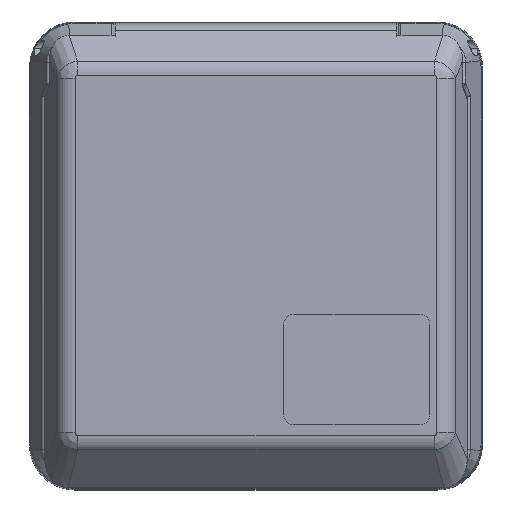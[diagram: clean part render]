
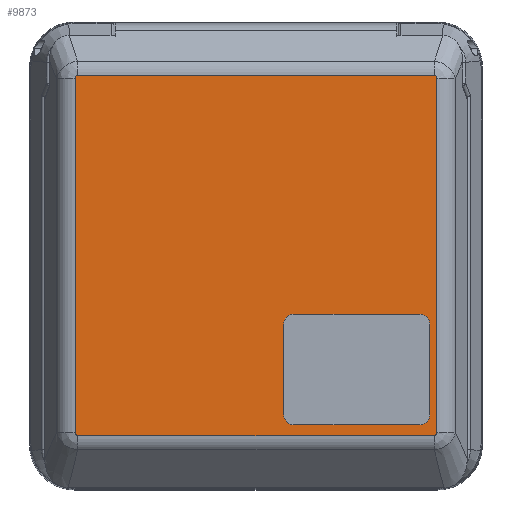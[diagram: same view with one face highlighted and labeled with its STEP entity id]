
A CAD part, top view. The second image highlights one B-rep face of the part: STEP entity #9873.
In plain terms, the highlighted planar face has unit normal (0, 0, 1).
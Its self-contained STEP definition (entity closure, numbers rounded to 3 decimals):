
#1009=CARTESIAN_POINT('',(-35.478,35.843,27.3));
#1010=CARTESIAN_POINT('',(-35.523,35.843,27.3));
#1011=CARTESIAN_POINT('',(-35.607,35.829,27.3));
#1012=CARTESIAN_POINT('',(-35.729,35.761,27.3));
#1013=CARTESIAN_POINT('',(-35.827,35.646,27.3));
#1014=CARTESIAN_POINT('',(-35.895,35.485,27.3));
#1015=CARTESIAN_POINT('',(-35.911,35.357,27.3));
#1016=CARTESIAN_POINT('',(-35.911,35.287,27.3));
#1018=DIRECTION('',(-1.,0.,0.));
#1019=VECTOR('',#1018,70.957);
#1020=CARTESIAN_POINT('',(35.478,35.843,27.3));
#1021=LINE('1716',#1020,#1019);
#1022=CARTESIAN_POINT('',(35.911,35.287,27.3));
#1023=CARTESIAN_POINT('',(35.911,35.357,27.3));
#1024=CARTESIAN_POINT('',(35.895,35.485,27.3));
#1025=CARTESIAN_POINT('',(35.827,35.646,27.3));
#1026=CARTESIAN_POINT('',(35.729,35.761,27.3));
#1027=CARTESIAN_POINT('',(35.607,35.829,27.3));
#1028=CARTESIAN_POINT('',(35.522,35.843,27.3));
#1029=CARTESIAN_POINT('',(35.478,35.843,27.3));
#1031=DIRECTION('',(0.,1.,0.));
#1032=VECTOR('',#1031,70.443);
#1033=CARTESIAN_POINT('',(35.911,-35.156,27.3));
#1034=LINE('1712',#1033,#1032);
#1035=CARTESIAN_POINT('',(35.44,-35.743,27.3));
#1036=CARTESIAN_POINT('',(35.487,-35.743,27.3));
#1037=CARTESIAN_POINT('',(35.577,-35.729,27.3));
#1038=CARTESIAN_POINT('',(35.707,-35.658,27.3));
#1039=CARTESIAN_POINT('',(35.816,-35.538,27.3));
#1040=CARTESIAN_POINT('',(35.892,-35.368,27.3));
#1041=CARTESIAN_POINT('',(35.911,-35.231,27.3));
#1042=CARTESIAN_POINT('',(35.911,-35.156,27.3));
#1044=DIRECTION('',(1.,0.,0.));
#1045=VECTOR('',#1044,70.881);
#1046=CARTESIAN_POINT('',(-35.44,-35.743,27.3));
#1047=LINE('1708',#1046,#1045);
#1048=CARTESIAN_POINT('',(-35.911,-35.156,27.3));
#1049=CARTESIAN_POINT('',(-35.911,-35.231,27.3));
#1050=CARTESIAN_POINT('',(-35.892,-35.368,27.3));
#1051=CARTESIAN_POINT('',(-35.815,-35.538,27.3));
#1052=CARTESIAN_POINT('',(-35.707,-35.658,27.3));
#1053=CARTESIAN_POINT('',(-35.577,-35.729,27.3));
#1054=CARTESIAN_POINT('',(-35.487,-35.743,27.3));
#1055=CARTESIAN_POINT('',(-35.44,-35.743,27.3));
#1057=DIRECTION('',(0.,-1.,0.));
#1058=VECTOR('',#1057,70.443);
#1059=CARTESIAN_POINT('',(-35.911,35.287,27.3));
#1060=LINE('1704',#1059,#1058);
#1061=DIRECTION('',(1.,0.,0.));
#1062=VECTOR('',#1061,25.);
#1063=CARTESIAN_POINT('',(7.5,-33.6,27.3));
#1064=LINE('1675',#1063,#1062);
#1065=CARTESIAN_POINT('',(32.5,-31.6,27.3));
#1066=DIRECTION('',(0.,0.,1.));
#1067=DIRECTION('',(0.,-1.,0.));
#1068=AXIS2_PLACEMENT_3D('',#1065,#1066,#1067);
#1070=DIRECTION('',(0.,1.,0.));
#1071=VECTOR('',#1070,18.);
#1072=CARTESIAN_POINT('',(34.5,-31.6,27.3));
#1073=LINE('1677',#1072,#1071);
#1074=CARTESIAN_POINT('',(32.5,-13.6,27.3));
#1075=DIRECTION('',(0.,0.,1.));
#1076=DIRECTION('',(1.,0.,0.));
#1077=AXIS2_PLACEMENT_3D('',#1074,#1075,#1076);
#1079=DIRECTION('',(-1.,0.,0.));
#1080=VECTOR('',#1079,25.);
#1081=CARTESIAN_POINT('',(32.5,-11.6,27.3));
#1082=LINE('1679',#1081,#1080);
#1083=CARTESIAN_POINT('',(7.5,-13.6,27.3));
#1084=DIRECTION('',(0.,0.,1.));
#1085=DIRECTION('',(0.,1.,0.));
#1086=AXIS2_PLACEMENT_3D('',#1083,#1084,#1085);
#1088=DIRECTION('',(0.,-1.,0.));
#1089=VECTOR('',#1088,18.);
#1090=CARTESIAN_POINT('',(5.5,-13.6,27.3));
#1091=LINE('1681',#1090,#1089);
#1092=CARTESIAN_POINT('',(7.5,-31.6,27.3));
#1093=DIRECTION('',(0.,0.,1.));
#1094=DIRECTION('',(-1.,0.,0.));
#1095=AXIS2_PLACEMENT_3D('',#1092,#1093,#1094);
#8109=CARTESIAN_POINT('',(7.5,-33.6,27.3));
#8110=CARTESIAN_POINT('',(32.5,-33.6,27.3));
#8111=VERTEX_POINT('',#8109);
#8112=VERTEX_POINT('',#8110);
#8113=CARTESIAN_POINT('',(34.5,-31.6,27.3));
#8114=VERTEX_POINT('',#8113);
#8115=CARTESIAN_POINT('',(34.5,-13.6,27.3));
#8116=VERTEX_POINT('',#8115);
#8117=CARTESIAN_POINT('',(32.5,-11.6,27.3));
#8118=VERTEX_POINT('',#8117);
#8119=CARTESIAN_POINT('',(7.5,-11.6,27.3));
#8120=VERTEX_POINT('',#8119);
#8121=CARTESIAN_POINT('',(5.5,-13.6,27.3));
#8122=VERTEX_POINT('',#8121);
#8123=CARTESIAN_POINT('',(5.5,-31.6,27.3));
#8124=VERTEX_POINT('',#8123);
#8133=VERTEX_POINT('',#1009);
#8134=VERTEX_POINT('',#1016);
#8137=CARTESIAN_POINT('',(-35.911,-35.156,27.3));
#8138=VERTEX_POINT('',#8137);
#8141=VERTEX_POINT('',#1055);
#8143=CARTESIAN_POINT('',(35.44,-35.743,27.3));
#8144=VERTEX_POINT('',#8143);
#8147=VERTEX_POINT('',#1042);
#8149=CARTESIAN_POINT('',(35.911,35.287,27.3));
#8150=VERTEX_POINT('',#8149);
#8153=VERTEX_POINT('',#1029);
#9833=CARTESIAN_POINT('',(-42.,37.5,27.3));
#9834=DIRECTION('',(0.,0.,1.));
#9835=DIRECTION('',(0.,-1.,0.));
#9836=AXIS2_PLACEMENT_3D('',#9833,#9834,#9835);
#9837=PLANE('431',#9836);
#9839=ORIENTED_EDGE('1702',*,*,#9838,.F.);
#9841=ORIENTED_EDGE('1716',*,*,#9840,.F.);
#9843=ORIENTED_EDGE('1714',*,*,#9842,.F.);
#9844=ORIENTED_EDGE('1712',*,*,#9811,.F.);
#9846=ORIENTED_EDGE('1710',*,*,#9845,.F.);
#9848=ORIENTED_EDGE('1708',*,*,#9847,.F.);
#9850=ORIENTED_EDGE('1706',*,*,#9849,.F.);
#9852=ORIENTED_EDGE('1704',*,*,#9851,.F.);
#9853=EDGE_LOOP('431',(#9839,#9841,#9843,#9844,#9846,#9848,#9850,#9852));
#9854=FACE_OUTER_BOUND('431',#9853,.F.);
#9856=ORIENTED_EDGE('1675',*,*,#9855,.T.);
#9858=ORIENTED_EDGE('1676',*,*,#9857,.T.);
#9860=ORIENTED_EDGE('1677',*,*,#9859,.T.);
#9862=ORIENTED_EDGE('1678',*,*,#9861,.T.);
#9864=ORIENTED_EDGE('1679',*,*,#9863,.T.);
#9866=ORIENTED_EDGE('1680',*,*,#9865,.T.);
#9868=ORIENTED_EDGE('1681',*,*,#9867,.T.);
#9870=ORIENTED_EDGE('1682',*,*,#9869,.T.);
#9871=EDGE_LOOP('431',(#9856,#9858,#9860,#9862,#9864,#9866,#9868,#9870));
#9872=FACE_BOUND('431',#9871,.F.);
#1017=B_SPLINE_CURVE_WITH_KNOTS('1702',3,(#1009,#1010,#1011,#1012,#1013,#1014,
#1015,#1016),.UNSPECIFIED.,.F.,.F.,(4,1,1,1,1,4),(0.,0.2,0.4,0.6,0.8,
1.),.UNSPECIFIED.);
#1030=B_SPLINE_CURVE_WITH_KNOTS('1714',3,(#1022,#1023,#1024,#1025,#1026,#1027,
#1028,#1029),.UNSPECIFIED.,.F.,.F.,(4,1,1,1,1,4),(0.,0.2,0.4,0.6,0.8,
1.),.UNSPECIFIED.);
#1043=B_SPLINE_CURVE_WITH_KNOTS('1710',3,(#1035,#1036,#1037,#1038,#1039,#1040,
#1041,#1042),.UNSPECIFIED.,.F.,.F.,(4,1,1,1,1,4),(0.,0.2,0.4,0.6,0.8,
1.),.UNSPECIFIED.);
#1056=B_SPLINE_CURVE_WITH_KNOTS('1706',3,(#1048,#1049,#1050,#1051,#1052,#1053,
#1054,#1055),.UNSPECIFIED.,.F.,.F.,(4,1,1,1,1,4),(0.,0.2,0.4,0.6,0.8,
1.),.UNSPECIFIED.);
#1069=CIRCLE('1676',#1068,2.);
#1078=CIRCLE('1678',#1077,2.);
#1087=CIRCLE('1680',#1086,2.);
#1096=CIRCLE('1682',#1095,2.);
#9811=EDGE_CURVE('1712',#8147,#8150,#1034,.T.);
#9838=EDGE_CURVE('1702',#8133,#8134,#1017,.T.);
#9840=EDGE_CURVE('1716',#8153,#8133,#1021,.T.);
#9842=EDGE_CURVE('1714',#8150,#8153,#1030,.T.);
#9845=EDGE_CURVE('1710',#8144,#8147,#1043,.T.);
#9847=EDGE_CURVE('1708',#8141,#8144,#1047,.T.);
#9849=EDGE_CURVE('1706',#8138,#8141,#1056,.T.);
#9851=EDGE_CURVE('1704',#8134,#8138,#1060,.T.);
#9855=EDGE_CURVE('1675',#8111,#8112,#1064,.T.);
#9857=EDGE_CURVE('1676',#8112,#8114,#1069,.T.);
#9859=EDGE_CURVE('1677',#8114,#8116,#1073,.T.);
#9861=EDGE_CURVE('1678',#8116,#8118,#1078,.T.);
#9863=EDGE_CURVE('1679',#8118,#8120,#1082,.T.);
#9865=EDGE_CURVE('1680',#8120,#8122,#1087,.T.);
#9867=EDGE_CURVE('1681',#8122,#8124,#1091,.T.);
#9869=EDGE_CURVE('1682',#8124,#8111,#1096,.T.);
#9873=ADVANCED_FACE('431',(#9854,#9872),#9837,.T.);
